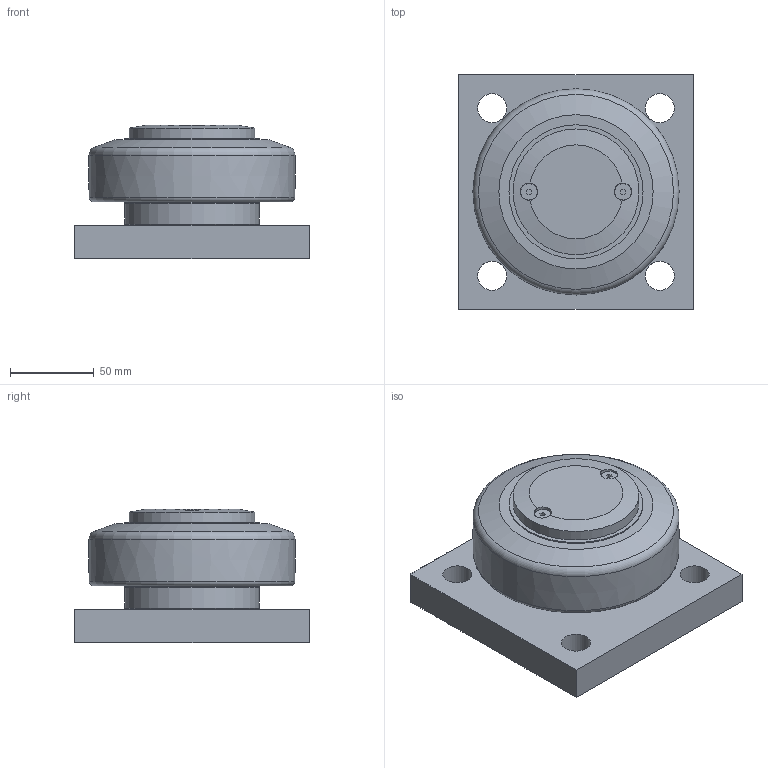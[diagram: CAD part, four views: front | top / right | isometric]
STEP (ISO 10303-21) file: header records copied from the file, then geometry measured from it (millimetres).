
FILE_DESCRIPTION(/* description */ ('-','CAx-IF Rec.Pracs.---Representation and Presentation of Product Manufacturing Information (PMI)---4.0---2014-10-13'),/* implementation_level */ '2;1');
FILE_NAME(/* name */ 'c:\temp\76151939-335a-421c-bb33-69eb7ad3602d\2cb03231-8820-4c6f-9bb1-42badb0b5cb6.stp',/* time_stamp */ '2020-04-01T16:08:40+02:00',/* author */ ('-'),/* organization */ ('NTI CADcenter A/S'),/* preprocessor_version */ 'ST-DEVELOPER v18',/* originating_system */ 'Autodesk Inventor 2020',/* authorisation */ '-');
FILE_SCHEMA (('AP242_MANAGED_MODEL_BASED_3D_ENGINEERING_MIM_LF { 1 0 10303 442 1 1 4 }'));
Length unit declared in the file: millimetre
Products named in the file (1): HTR 120.0360 BQ1000_Kontur
Bounding box: 140 x 140 x 79.5 mm (x, y, z)
Volume: 901488.6 mm3; surface area: 83830.9 mm2
Topology: 1 solids, 1 shells, 48 faces, 128 edges, 89 vertices
Faces by surface type: plane 27, cylinder 12, cone 6, torus 2, bspline 1
Full cylindrical faces by diameter (mm): 9.75 x2, 10.4 x2, 17.294 x4, 75 x1, 80 x3
Entity records: 1649 total; most frequent: CARTESIAN_POINT 332, DIRECTION 278, ORIENTED_EDGE 256, EDGE_CURVE 128, AXIS2_PLACEMENT_3D 106, VERTEX_POINT 89, LINE 66, VECTOR 66
